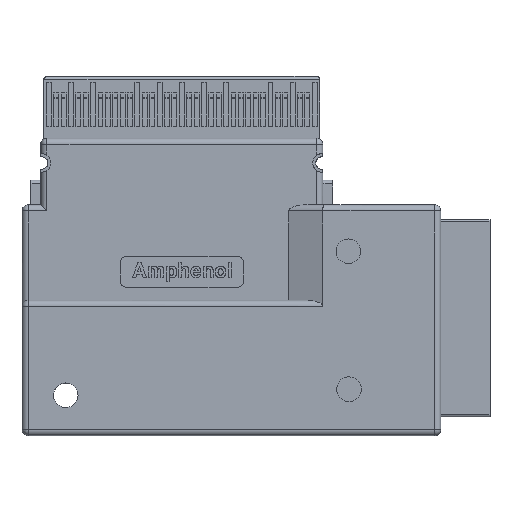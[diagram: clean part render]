
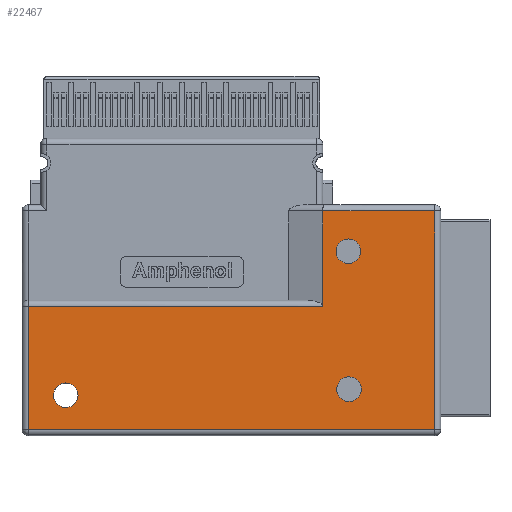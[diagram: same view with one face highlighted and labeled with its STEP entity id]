
A CAD part, top view. The second image highlights one B-rep face of the part: STEP entity #22467.
In plain terms, the highlighted planar face has unit normal (0, 0, 1) as drawn and (0, -1, 0) by its records, which use the part's own axes.
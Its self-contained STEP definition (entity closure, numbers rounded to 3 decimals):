
#16889=DIRECTION('',(0.,0.,1.));
#16890=VECTOR('',#16889,23.925);
#16891=CARTESIAN_POINT('',(1.45,-0.77,-11.45));
#16892=LINE('',#16891,#16890);
#16908=CARTESIAN_POINT('',(5.925,-0.77,-13.525));
#16909=DIRECTION('',(0.,-1.,0.));
#16910=DIRECTION('',(0.,0.,1.));
#16911=AXIS2_PLACEMENT_3D('',#16908,#16909,#16910);
#16913=CARTESIAN_POINT('',(5.925,-0.77,-13.525));
#16914=DIRECTION('',(0.,-1.,0.));
#16915=DIRECTION('',(0.,0.,-1.));
#16916=AXIS2_PLACEMENT_3D('',#16913,#16914,#16915);
#16918=CARTESIAN_POINT('',(-5.275,-0.77,-13.57));
#16919=DIRECTION('',(0.,-1.,0.));
#16920=DIRECTION('',(-0.006,0.,1.));
#16921=AXIS2_PLACEMENT_3D('',#16918,#16919,#16920);
#16923=CARTESIAN_POINT('',(-5.275,-0.77,-13.57));
#16924=DIRECTION('',(0.,-1.,0.));
#16925=DIRECTION('',(0.006,0.,-1.));
#16926=AXIS2_PLACEMENT_3D('',#16923,#16924,#16925);
#16928=CARTESIAN_POINT('',(-5.766,-0.77,9.425));
#16929=DIRECTION('',(0.,-1.,0.));
#16930=DIRECTION('',(0.,0.,1.));
#16931=AXIS2_PLACEMENT_3D('',#16928,#16929,#16930);
#16933=CARTESIAN_POINT('',(-5.766,-0.77,9.425));
#16934=DIRECTION('',(0.,-1.,0.));
#16935=DIRECTION('',(-1.,0.,0.004));
#16936=AXIS2_PLACEMENT_3D('',#16933,#16934,#16935);
#16938=CARTESIAN_POINT('',(-5.766,-0.77,9.425));
#16939=DIRECTION('',(0.,-1.,0.));
#16940=DIRECTION('',(0.,0.,-1.));
#16941=AXIS2_PLACEMENT_3D('',#16938,#16939,#16940);
#16943=CARTESIAN_POINT('',(-5.766,-0.77,9.425));
#16944=DIRECTION('',(0.,-1.,0.));
#16945=DIRECTION('',(1.,0.,-0.004));
#16946=AXIS2_PLACEMENT_3D('',#16943,#16944,#16945);
#16952=DIRECTION('',(0.,0.,-1.));
#16953=VECTOR('',#16952,33.);
#16954=CARTESIAN_POINT('',(-8.55,-0.77,12.475));
#16955=LINE('',#16954,#16953);
#16983=DIRECTION('',(1.,0.,0.));
#16984=VECTOR('',#16983,17.75);
#16985=CARTESIAN_POINT('',(-8.55,-0.77,-20.525));
#16986=LINE('',#16985,#16984);
#17010=DIRECTION('',(0.,0.,1.));
#17011=VECTOR('',#17010,9.075);
#17012=CARTESIAN_POINT('',(9.2,-0.77,-20.525));
#17013=LINE('',#17012,#17011);
#18220=DIRECTION('',(-1.,0.,0.));
#18221=VECTOR('',#18220,10.);
#18222=CARTESIAN_POINT('',(1.45,-0.77,12.475));
#18223=LINE('',#18222,#18221);
#19327=DIRECTION('',(-1.,0.,0.));
#19328=VECTOR('',#19327,7.75);
#19329=CARTESIAN_POINT('',(9.2,-0.77,-11.45));
#19330=LINE('',#19329,#19328);
#21162=CARTESIAN_POINT('',(1.45,-0.77,-11.45));
#21163=CARTESIAN_POINT('',(1.45,-0.77,12.475));
#21164=VERTEX_POINT('',#21162);
#21165=VERTEX_POINT('',#21163);
#21166=CARTESIAN_POINT('',(-8.55,-0.77,12.475));
#21167=CARTESIAN_POINT('',(-8.55,-0.77,-20.525));
#21168=VERTEX_POINT('',#21166);
#21169=VERTEX_POINT('',#21167);
#21170=CARTESIAN_POINT('',(9.2,-0.77,-11.45));
#21171=VERTEX_POINT('',#21170);
#21172=CARTESIAN_POINT('',(9.2,-0.77,-20.525));
#21173=VERTEX_POINT('',#21172);
#21174=CARTESIAN_POINT('',(5.925,-0.77,-12.525));
#21175=CARTESIAN_POINT('',(5.925,-0.77,-14.525));
#21176=VERTEX_POINT('',#21174);
#21177=VERTEX_POINT('',#21175);
#21178=CARTESIAN_POINT('',(-5.281,-0.77,-12.57));
#21179=CARTESIAN_POINT('',(-5.269,-0.77,-14.57));
#21180=VERTEX_POINT('',#21178);
#21181=VERTEX_POINT('',#21179);
#21182=CARTESIAN_POINT('',(-5.766,-0.77,10.425));
#21183=CARTESIAN_POINT('',(-6.766,-0.77,9.429));
#21184=VERTEX_POINT('',#21182);
#21185=VERTEX_POINT('',#21183);
#21186=CARTESIAN_POINT('',(-5.766,-0.77,8.425));
#21187=VERTEX_POINT('',#21186);
#21188=CARTESIAN_POINT('',(-4.766,-0.77,9.421));
#21189=VERTEX_POINT('',#21188);
#22427=CARTESIAN_POINT('',(9.7,-0.77,-11.45));
#22428=DIRECTION('',(0.,-1.,0.));
#22429=DIRECTION('',(0.,0.,-1.));
#22430=AXIS2_PLACEMENT_3D('',#22427,#22428,#22429);
#22431=PLANE('',#22430);
#22433=ORIENTED_EDGE('',*,*,#22432,.F.);
#22435=ORIENTED_EDGE('',*,*,#22434,.F.);
#22436=ORIENTED_EDGE('',*,*,#22417,.F.);
#22438=ORIENTED_EDGE('',*,*,#22437,.F.);
#22440=ORIENTED_EDGE('',*,*,#22439,.F.);
#22442=ORIENTED_EDGE('',*,*,#22441,.F.);
#22443=EDGE_LOOP('',(#22433,#22435,#22436,#22438,#22440,#22442));
#22444=FACE_OUTER_BOUND('',#22443,.F.);
#22446=ORIENTED_EDGE('',*,*,#22445,.T.);
#22448=ORIENTED_EDGE('',*,*,#22447,.T.);
#22449=EDGE_LOOP('',(#22446,#22448));
#22450=FACE_BOUND('',#22449,.F.);
#22452=ORIENTED_EDGE('',*,*,#22451,.T.);
#22454=ORIENTED_EDGE('',*,*,#22453,.T.);
#22455=EDGE_LOOP('',(#22452,#22454));
#22456=FACE_BOUND('',#22455,.F.);
#22458=ORIENTED_EDGE('',*,*,#22457,.T.);
#22460=ORIENTED_EDGE('',*,*,#22459,.T.);
#22462=ORIENTED_EDGE('',*,*,#22461,.T.);
#22464=ORIENTED_EDGE('',*,*,#22463,.T.);
#22465=EDGE_LOOP('',(#22458,#22460,#22462,#22464));
#22466=FACE_BOUND('',#22465,.F.);
#22467=ADVANCED_FACE('',(#22444,#22450,#22456,#22466),#22431,.T.);
#16912=CIRCLE('',#16911,1.);
#16917=CIRCLE('',#16916,1.);
#16922=CIRCLE('',#16921,1.);
#16927=CIRCLE('',#16926,1.);
#16932=CIRCLE('',#16931,1.);
#16937=CIRCLE('',#16936,1.);
#16942=CIRCLE('',#16941,1.);
#16947=CIRCLE('',#16946,1.);
#22417=EDGE_CURVE('',#21164,#21165,#16892,.T.);
#22432=EDGE_CURVE('',#21168,#21169,#16955,.T.);
#22434=EDGE_CURVE('',#21165,#21168,#18223,.T.);
#22437=EDGE_CURVE('',#21171,#21164,#19330,.T.);
#22439=EDGE_CURVE('',#21173,#21171,#17013,.T.);
#22441=EDGE_CURVE('',#21169,#21173,#16986,.T.);
#22445=EDGE_CURVE('',#21176,#21177,#16912,.T.);
#22447=EDGE_CURVE('',#21177,#21176,#16917,.T.);
#22451=EDGE_CURVE('',#21180,#21181,#16922,.T.);
#22453=EDGE_CURVE('',#21181,#21180,#16927,.T.);
#22457=EDGE_CURVE('',#21184,#21185,#16932,.T.);
#22459=EDGE_CURVE('',#21185,#21187,#16937,.T.);
#22461=EDGE_CURVE('',#21187,#21189,#16942,.T.);
#22463=EDGE_CURVE('',#21189,#21184,#16947,.T.);
